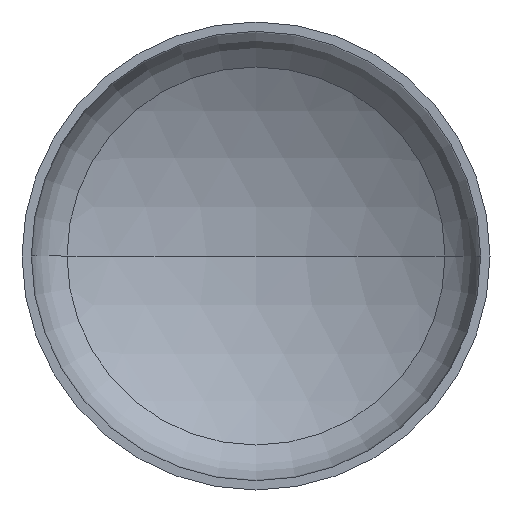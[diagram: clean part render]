
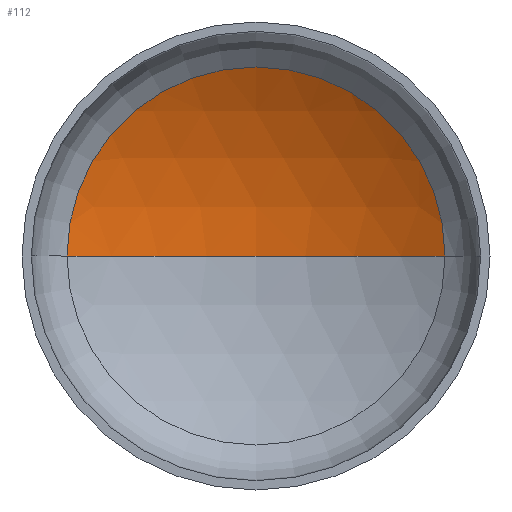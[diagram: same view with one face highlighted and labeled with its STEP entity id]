
A CAD part, front view. The second image highlights one B-rep face of the part: STEP entity #112.
In plain terms, the highlighted spherical face has radius 1120 mm.
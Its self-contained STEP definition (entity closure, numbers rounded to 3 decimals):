
#9 = ORIENTED_EDGE ( 'NONE', *, *, #359, .T. ) ;
#11 = AXIS2_PLACEMENT_3D ( 'NONE', #394, #323, #215 ) ;
#14 = AXIS2_PLACEMENT_3D ( 'NONE', #289, #392, #395 ) ;
#19 = AXIS2_PLACEMENT_3D ( 'NONE', #293, #150, #320 ) ;
#47 = ORIENTED_EDGE ( 'NONE', *, *, #361, .F. ) ;
#65 = AXIS2_PLACEMENT_3D ( 'NONE', #317, #356, #193 ) ;
#78 = VERTEX_POINT ( 'NONE', #266 ) ;
#112 = ADVANCED_FACE ( 'NONE', ( #407 ), #358, .F. ) ;
#114 = VERTEX_POINT ( 'NONE', #207 ) ;
#132 = VERTEX_POINT ( 'NONE', #312 ) ;
#136 = ORIENTED_EDGE ( 'NONE', *, *, #371, .T. ) ;
#150 = DIRECTION ( 'NONE',  ( 0., 0., -1. ) ) ;
#190 = CIRCLE ( 'NONE', #14, 1120. ) ;
#193 = DIRECTION ( 'NONE',  ( -1., 0., 0. ) ) ;
#202 = CIRCLE ( 'NONE', #19, 1120. ) ;
#207 = CARTESIAN_POINT ( 'NONE',  ( 565.569, 270.574, 0. ) ) ;
#215 = DIRECTION ( 'NONE',  ( 1., 0., 0. ) ) ;
#266 = CARTESIAN_POINT ( 'NONE',  ( 0., 423.862, 0. ) ) ;
#289 = CARTESIAN_POINT ( 'NONE',  ( 0., -696.138, 0. ) ) ;
#293 = CARTESIAN_POINT ( 'NONE',  ( 0., -696.138, 0. ) ) ;
#312 = CARTESIAN_POINT ( 'NONE',  ( -565.569, 270.574, 0. ) ) ;
#317 = CARTESIAN_POINT ( 'NONE',  ( 0., -696.138, 0. ) ) ;
#320 = DIRECTION ( 'NONE',  ( -1., 0., 0. ) ) ;
#323 = DIRECTION ( 'NONE',  ( 0., -1., 0. ) ) ;
#341 = EDGE_LOOP ( 'NONE', ( #47, #9, #136 ) ) ;
#356 = DIRECTION ( 'NONE',  ( 0., 0., -1. ) ) ;
#358 = SPHERICAL_SURFACE ( 'NONE', #65, 1120. ) ;
#359 = EDGE_CURVE ( 'NONE', #78, #114, #202, .T. ) ;
#361 = EDGE_CURVE ( 'NONE', #78, #132, #190, .T. ) ;
#371 = EDGE_CURVE ( 'NONE', #114, #132, #377, .T. ) ;
#377 = CIRCLE ( 'NONE', #11, 565.569 ) ;
#392 = DIRECTION ( 'NONE',  ( 0., 0., 1. ) ) ;
#394 = CARTESIAN_POINT ( 'NONE',  ( 0., 270.574, 0. ) ) ;
#395 = DIRECTION ( 'NONE',  ( 1., 0., 0. ) ) ;
#407 = FACE_OUTER_BOUND ( 'NONE', #341, .T. ) ;
